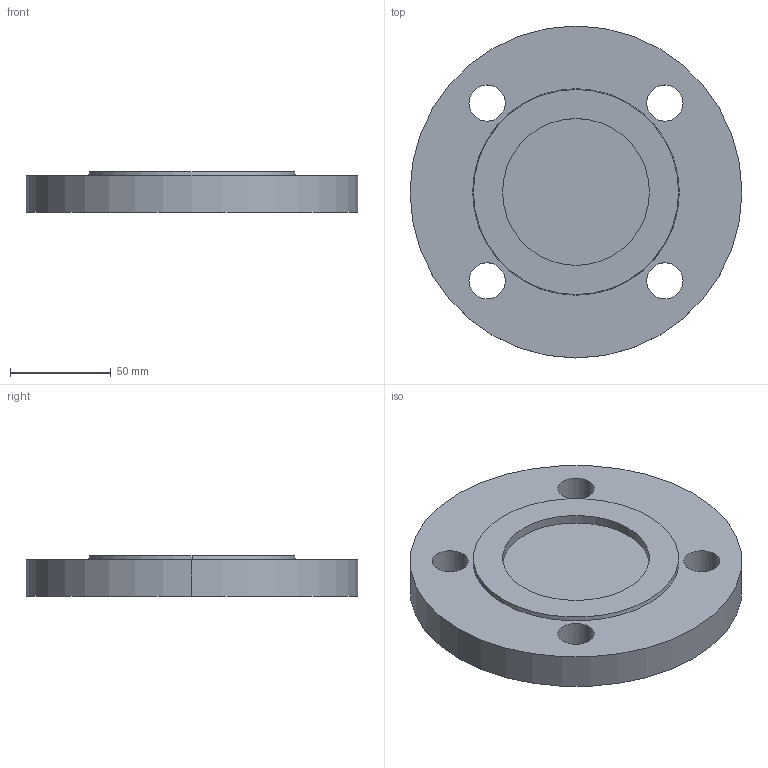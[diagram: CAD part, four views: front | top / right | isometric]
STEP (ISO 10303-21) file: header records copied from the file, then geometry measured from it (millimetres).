
FILE_DESCRIPTION (( 'STEP AP214' ), '1' );
FILE_NAME ('PN40 DN50 Type 05 - Type G Face.STEP', '2018-12-30T04:39:54', ( '' ), ( '' ), 'SwSTEP 2.0', 'SolidWorks 2019', '' );
FILE_SCHEMA (( 'AUTOMOTIVE_DESIGN' ));
Length unit declared in the file: millimetre
Products named in the file (1): PN40 DN50 Type 05 - Type G Face
Bounding box: 165 x 165 x 20 mm (x, y, z)
Volume: 364184.2 mm3; surface area: 55702.9 mm2
Topology: 1 solids, 1 shells, 18 faces, 42 edges, 28 vertices
Faces by surface type: cylinder 12, plane 4, cone 2
Entity records: 584 total; most frequent: DIRECTION 108, CARTESIAN_POINT 89, ORIENTED_EDGE 84, AXIS2_PLACEMENT_3D 47, EDGE_CURVE 42, CIRCLE 28, VERTEX_POINT 28, EDGE_LOOP 28
